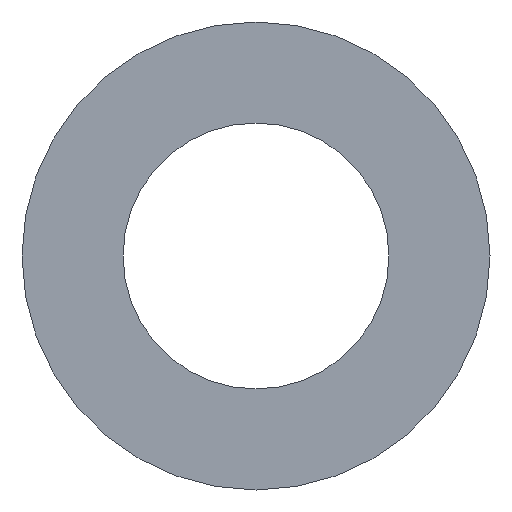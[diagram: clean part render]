
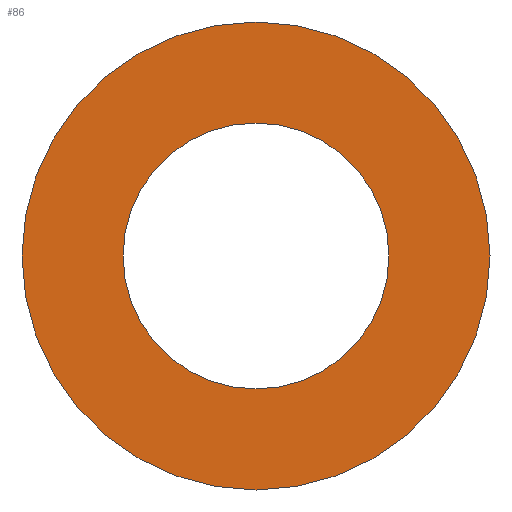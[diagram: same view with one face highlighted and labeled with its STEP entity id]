
A CAD part, front view. The second image highlights one B-rep face of the part: STEP entity #86.
In plain terms, the highlighted planar face has unit normal (0, -1, 0).
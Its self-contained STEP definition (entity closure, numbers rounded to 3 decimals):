
#4 = CIRCLE ( 'NONE', #87, 22. ) ;
#6 = CIRCLE ( 'NONE', #65, 12.5 ) ;
#7 = EDGE_CURVE ( 'NONE', #208, #153, #40, .T. ) ;
#13 = CARTESIAN_POINT ( 'NONE',  ( 0., -4., 12.5 ) ) ;
#31 = DIRECTION ( 'NONE',  ( 0., 0., 1. ) ) ;
#37 = DIRECTION ( 'NONE',  ( 0., 0., -1. ) ) ;
#40 = CIRCLE ( 'NONE', #52, 22. ) ;
#52 = AXIS2_PLACEMENT_3D ( 'NONE', #213, #212, #124 ) ;
#55 = ORIENTED_EDGE ( 'NONE', *, *, #143, .T. ) ;
#57 = EDGE_LOOP ( 'NONE', ( #120, #55 ) ) ;
#65 = AXIS2_PLACEMENT_3D ( 'NONE', #123, #83, #247 ) ;
#67 = CARTESIAN_POINT ( 'NONE',  ( 0., -4., -22. ) ) ;
#68 = ORIENTED_EDGE ( 'NONE', *, *, #7, .F. ) ;
#83 = DIRECTION ( 'NONE',  ( 0., 1., 0. ) ) ;
#86 = ADVANCED_FACE ( 'NONE', ( #119, #152 ), #104, .T. ) ;
#87 = AXIS2_PLACEMENT_3D ( 'NONE', #240, #144, #31 ) ;
#95 = ORIENTED_EDGE ( 'NONE', *, *, #221, .F. ) ;
#104 = PLANE ( 'NONE',  #109 ) ;
#109 = AXIS2_PLACEMENT_3D ( 'NONE', #227, #155, #37 ) ;
#119 = FACE_BOUND ( 'NONE', #57, .T. ) ;
#120 = ORIENTED_EDGE ( 'NONE', *, *, #205, .T. ) ;
#123 = CARTESIAN_POINT ( 'NONE',  ( 0., -4., 0. ) ) ;
#124 = DIRECTION ( 'NONE',  ( 0., 0., 1. ) ) ;
#132 = DIRECTION ( 'NONE',  ( 0., 0., 1. ) ) ;
#143 = EDGE_CURVE ( 'NONE', #218, #162, #6, .T. ) ;
#144 = DIRECTION ( 'NONE',  ( 0., 1., 0. ) ) ;
#149 = CARTESIAN_POINT ( 'NONE',  ( 0., -4., -12.5 ) ) ;
#152 = FACE_OUTER_BOUND ( 'NONE', #207, .T. ) ;
#153 = VERTEX_POINT ( 'NONE', #248 ) ;
#155 = DIRECTION ( 'NONE',  ( 0., -1., 0. ) ) ;
#162 = VERTEX_POINT ( 'NONE', #13 ) ;
#166 = CIRCLE ( 'NONE', #178, 12.5 ) ;
#171 = CARTESIAN_POINT ( 'NONE',  ( 0., -4., 0. ) ) ;
#178 = AXIS2_PLACEMENT_3D ( 'NONE', #171, #184, #132 ) ;
#184 = DIRECTION ( 'NONE',  ( 0., 1., 0. ) ) ;
#205 = EDGE_CURVE ( 'NONE', #162, #218, #166, .T. ) ;
#207 = EDGE_LOOP ( 'NONE', ( #95, #68 ) ) ;
#208 = VERTEX_POINT ( 'NONE', #67 ) ;
#212 = DIRECTION ( 'NONE',  ( 0., 1., 0. ) ) ;
#213 = CARTESIAN_POINT ( 'NONE',  ( 0., -4., 0. ) ) ;
#218 = VERTEX_POINT ( 'NONE', #149 ) ;
#221 = EDGE_CURVE ( 'NONE', #153, #208, #4, .T. ) ;
#227 = CARTESIAN_POINT ( 'NONE',  ( 0., -4., 22. ) ) ;
#240 = CARTESIAN_POINT ( 'NONE',  ( 0., -4., 0. ) ) ;
#247 = DIRECTION ( 'NONE',  ( 0., 0., 1. ) ) ;
#248 = CARTESIAN_POINT ( 'NONE',  ( 0., -4., 22. ) ) ;
